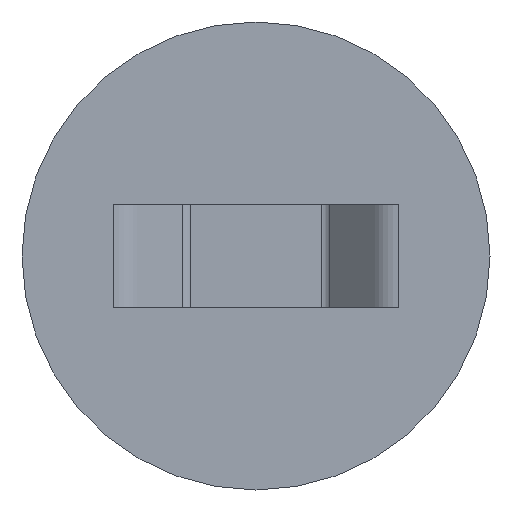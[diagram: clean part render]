
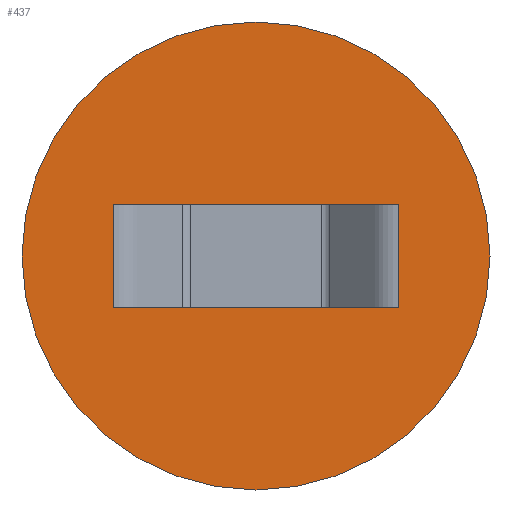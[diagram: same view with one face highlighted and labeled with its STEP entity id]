
A CAD part, front view. The second image highlights one B-rep face of the part: STEP entity #437.
In plain terms, the highlighted planar face has unit normal (0, -1, 0).
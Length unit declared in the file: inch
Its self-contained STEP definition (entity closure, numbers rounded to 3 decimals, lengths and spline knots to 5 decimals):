
#9 = DIRECTION ( 'NONE',  ( 0., -1., 0. ) ) ;
#48 = CARTESIAN_POINT ( 'NONE',  ( -0.38093, -0.059, -0.276 ) ) ;
#70 = DIRECTION ( 'NONE',  ( 0., -1., 0. ) ) ;
#71 = EDGE_CURVE ( 'NONE', #393, #597, #162, .T. ) ;
#86 = CARTESIAN_POINT ( 'NONE',  ( -0.38093, -0.059, 0. ) ) ;
#107 = AXIS2_PLACEMENT_3D ( 'NONE', #311, #490, #746 ) ;
#112 = ORIENTED_EDGE ( 'NONE', *, *, #273, .F. ) ;
#116 = ORIENTED_EDGE ( 'NONE', *, *, #619, .F. ) ;
#126 = LINE ( 'NONE', #501, #719 ) ;
#141 = CARTESIAN_POINT ( 'NONE',  ( -0.38093, -0.059, 0. ) ) ;
#142 = VERTEX_POINT ( 'NONE', #642 ) ;
#145 = EDGE_LOOP ( 'NONE', ( #116, #747, #112, #492 ) ) ;
#159 = DIRECTION ( 'NONE',  ( 0., 0., 1. ) ) ;
#162 = LINE ( 'NONE', #528, #388 ) ;
#164 = ORIENTED_EDGE ( 'NONE', *, *, #473, .T. ) ;
#167 = VECTOR ( 'NONE', #380, 39.37008 ) ;
#186 = PLANE ( 'NONE',  #716 ) ;
#191 = CARTESIAN_POINT ( 'NONE',  ( 0.38093, -0.059, 0. ) ) ;
#256 = DIRECTION ( 'NONE',  ( 1., 0., 0. ) ) ;
#257 = EDGE_LOOP ( 'NONE', ( #664, #164 ) ) ;
#273 = EDGE_CURVE ( 'NONE', #393, #566, #348, .T. ) ;
#277 = VECTOR ( 'NONE', #799, 39.37008 ) ;
#290 = CIRCLE ( 'NONE', #580, 0.625 ) ;
#306 = CARTESIAN_POINT ( 'NONE',  ( 0.625, -0.059, -0.138 ) ) ;
#311 = CARTESIAN_POINT ( 'NONE',  ( 0., -0.059, -0.138 ) ) ;
#348 = LINE ( 'NONE', #48, #277 ) ;
#362 = CARTESIAN_POINT ( 'NONE',  ( 0., -0.059, -0.138 ) ) ;
#380 = DIRECTION ( 'NONE',  ( -1., 0., 0. ) ) ;
#388 = VECTOR ( 'NONE', #159, 39.37008 ) ;
#393 = VERTEX_POINT ( 'NONE', #790 ) ;
#437 = ADVANCED_FACE ( 'NONE', ( #484, #498 ), #186, .T. ) ;
#470 = CIRCLE ( 'NONE', #107, 0.625 ) ;
#473 = EDGE_CURVE ( 'NONE', #142, #487, #290, .T. ) ;
#484 = FACE_OUTER_BOUND ( 'NONE', #257, .T. ) ;
#486 = DIRECTION ( 'NONE',  ( 0., 0., 1. ) ) ;
#487 = VERTEX_POINT ( 'NONE', #306 ) ;
#490 = DIRECTION ( 'NONE',  ( 0., -1., 0. ) ) ;
#492 = ORIENTED_EDGE ( 'NONE', *, *, #71, .T. ) ;
#498 = FACE_BOUND ( 'NONE', #145, .T. ) ;
#501 = CARTESIAN_POINT ( 'NONE',  ( 0.38093, -0.059, -0.276 ) ) ;
#503 = CARTESIAN_POINT ( 'NONE',  ( -0.625, -0.059, -0.276 ) ) ;
#512 = LINE ( 'NONE', #141, #167 ) ;
#528 = CARTESIAN_POINT ( 'NONE',  ( -0.38093, -0.059, -0.276 ) ) ;
#535 = VERTEX_POINT ( 'NONE', #191 ) ;
#566 = VERTEX_POINT ( 'NONE', #638 ) ;
#580 = AXIS2_PLACEMENT_3D ( 'NONE', #362, #9, #256 ) ;
#597 = VERTEX_POINT ( 'NONE', #86 ) ;
#619 = EDGE_CURVE ( 'NONE', #535, #597, #512, .T. ) ;
#638 = CARTESIAN_POINT ( 'NONE',  ( 0.38093, -0.059, -0.276 ) ) ;
#642 = CARTESIAN_POINT ( 'NONE',  ( -0.625, -0.059, -0.138 ) ) ;
#664 = ORIENTED_EDGE ( 'NONE', *, *, #669, .T. ) ;
#669 = EDGE_CURVE ( 'NONE', #487, #142, #470, .T. ) ;
#716 = AXIS2_PLACEMENT_3D ( 'NONE', #503, #70, #753 ) ;
#719 = VECTOR ( 'NONE', #486, 39.37008 ) ;
#732 = EDGE_CURVE ( 'NONE', #566, #535, #126, .T. ) ;
#746 = DIRECTION ( 'NONE',  ( 1., 0., 0. ) ) ;
#747 = ORIENTED_EDGE ( 'NONE', *, *, #732, .F. ) ;
#753 = DIRECTION ( 'NONE',  ( 0., 0., -1. ) ) ;
#790 = CARTESIAN_POINT ( 'NONE',  ( -0.38093, -0.059, -0.276 ) ) ;
#799 = DIRECTION ( 'NONE',  ( 1., 0., 0. ) ) ;
